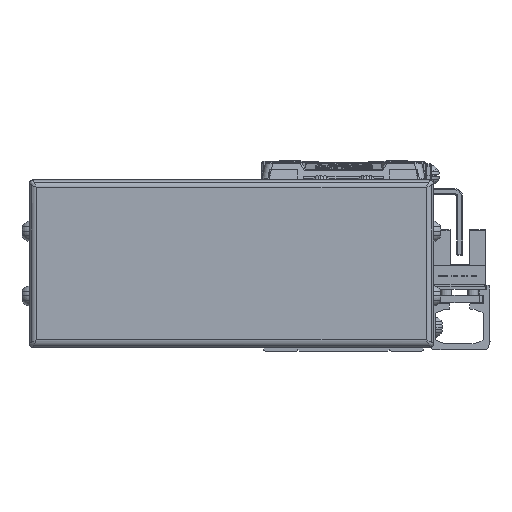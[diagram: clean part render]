
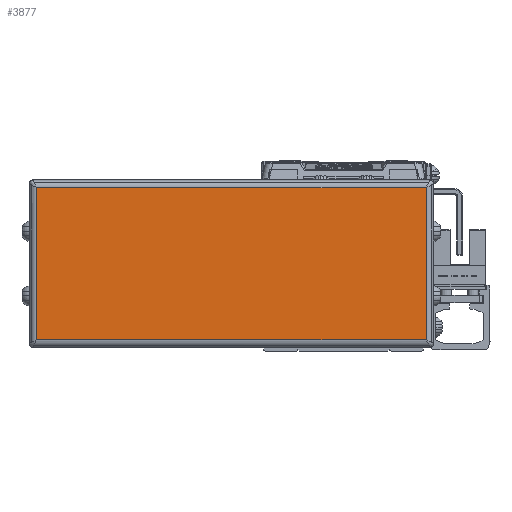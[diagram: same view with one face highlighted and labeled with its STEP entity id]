
A CAD part, left-side view. The second image highlights one B-rep face of the part: STEP entity #3877.
In plain terms, the highlighted planar face has unit normal (-1, 0, 0).
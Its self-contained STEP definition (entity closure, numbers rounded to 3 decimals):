
#3877=ADVANCED_FACE('',(#9384),#9385,.F.);
#9384=FACE_OUTER_BOUND('',#17493,.T.);
#9385=PLANE('',#17494);
#17493=EDGE_LOOP('',(#30669,#30670,#30671,#30672));
#17494=AXIS2_PLACEMENT_3D('',#30673,#30674,#30675);
#30669=ORIENTED_EDGE('',*,*,#50058,.T.);
#30670=ORIENTED_EDGE('',*,*,#50059,.T.);
#30671=ORIENTED_EDGE('',*,*,#50060,.T.);
#30672=ORIENTED_EDGE('',*,*,#48055,.T.);
#30673=CARTESIAN_POINT('',(-48.,29.5,-4.));
#30674=DIRECTION('',(1.0,0.,0.));
#30675=DIRECTION('',(0.,0.,1.0));
#48055=EDGE_CURVE('',#57164,#57162,#57165,.T.);
#50058=EDGE_CURVE('',#57162,#60528,#60529,.T.);
#50059=EDGE_CURVE('',#60528,#57570,#60530,.T.);
#50060=EDGE_CURVE('',#57570,#57164,#60531,.T.);
#57162=VERTEX_POINT('',#70022);
#57164=VERTEX_POINT('',#70024);
#57165=LINE('',#70025,#70026);
#57570=VERTEX_POINT('',#70612);
#60528=VERTEX_POINT('',#75089);
#60529=LINE('',#75090,#75091);
#60530=LINE('',#75092,#75093);
#60531=LINE('',#75094,#75095);
#70022=CARTESIAN_POINT('',(-48.,-21.7,16.));
#70024=CARTESIAN_POINT('',(-48.,-21.7,-24.));
#70025=CARTESIAN_POINT('',(-48.,-21.7,-4.));
#70026=VECTOR('',#86607,10.0);
#70612=CARTESIAN_POINT('',(-48.,80.7,-24.));
#75089=CARTESIAN_POINT('',(-48.,80.7,16.));
#75090=CARTESIAN_POINT('',(-48.,29.5,16.));
#75091=VECTOR('',#89262,10.0);
#75092=CARTESIAN_POINT('',(-48.,80.7,-4.));
#75093=VECTOR('',#89263,10.0);
#75094=CARTESIAN_POINT('',(-48.,29.5,-24.));
#75095=VECTOR('',#89264,10.0);
#86607=DIRECTION('',(0.,0.,1.0));
#89262=DIRECTION('',(0.,1.0,0.));
#89263=DIRECTION('',(0.,0.,-1.0));
#89264=DIRECTION('',(0.,-1.0,0.));
